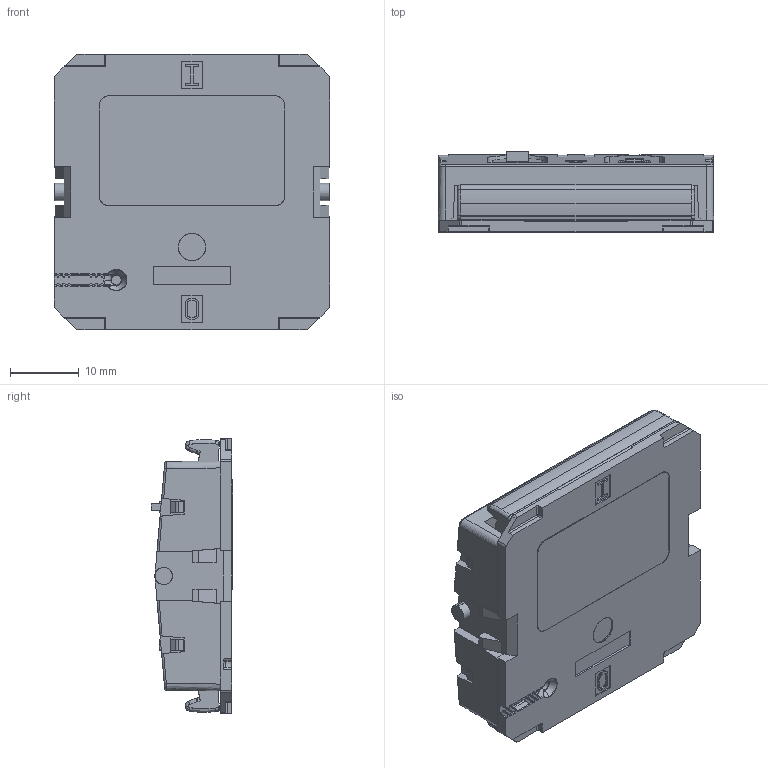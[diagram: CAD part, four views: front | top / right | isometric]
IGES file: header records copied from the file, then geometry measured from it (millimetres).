
Start section: SolidWorks IGES file using analytic representation for surfaces
Global section: file name: C:\Users\sven.klausnitzer\Desktop\PTM 210 update\Aufbereitet für SVN\EinbauanweisungPTM210-Schaltsteg-gedrückt_14-04-2020.IGS; native system: SolidWorks 2014; preprocessor: SolidWorks 2014; author: sven.klausnitzer; date: 200420.205218; units: millimetre
Bounding box: 40 x 11.81 x 40 mm (x, y, z)
Surface area: 8458.5 mm2 (no closed solid volume)
Topology: 0 solids, 0 shells, 1095 faces, 8417 edges, 8370 vertices
Faces by surface type: bspline 657, revolution 438
